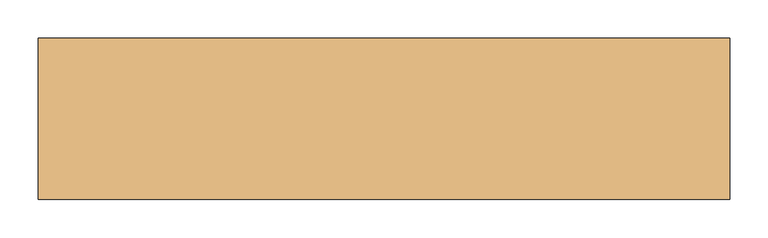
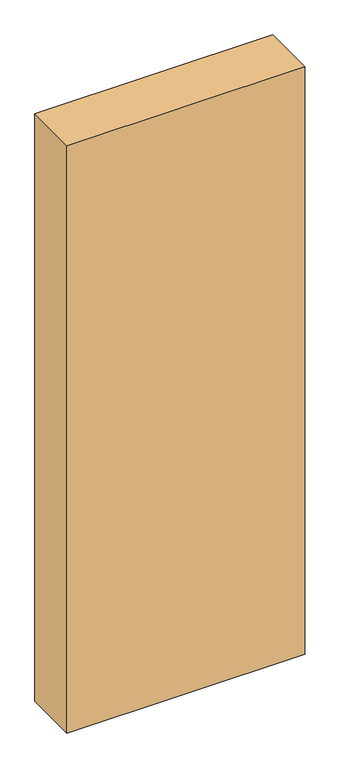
"""IFC4 building model written with IfcOpenShell, lengths in millimetres: door geometry, Dr_Проем-Простой : ДВ."""

from ifc_helpers import new_model, si_unit, frame, origin, place, context, project, spatial, polyline, outline, extrude, source, transform, mapped, element, save


def door_d5aefb92(model_context):
    return source(origin(), model_context, "Body", "SweptSolid", [
        extrude(outline(polyline([(655.3230163, 105.0), (655.3230163, -105.0), (-244.6769837, -105.0), (-244.6769837, 105.0), (655.3230163, 105.0)])), frame((0.0, 0.0, -250.0), z_axis=(0.0, 0.0, 1.0), x_axis=(1.0, 0.0, 0.0)), (0.0, 0.0, 1.0), 2350.0),
    ])


if __name__ == "__main__":
    model = new_model("IFC4")
    model_context = context("Model", 3, world=origin())
    ifc_project = project(units=[si_unit("LENGTHUNIT", "METRE", prefix="MILLI")], contexts=[model_context])
    site = spatial("IfcSite", under=ifc_project)
    building = spatial("IfcBuilding", under=site)
    placement = place(None, origin())
    door_shape = door_d5aefb92(model_context)
    element("IfcDoor", 1, ObjectType="Dr_Проем-Простой : ДВ", at=placement, inside=building, context=model_context, shape_type="MappedRepresentation", body=[
        mapped(door_shape, transform((0.0, 0.0, 0.0), x_axis=(1.0, 0.0, 0.0), y_axis=(0.0, 1.0, 0.0), z_axis=(0.0, 0.0, 1.0))),
    ])
    save(model, "model.ifc")
